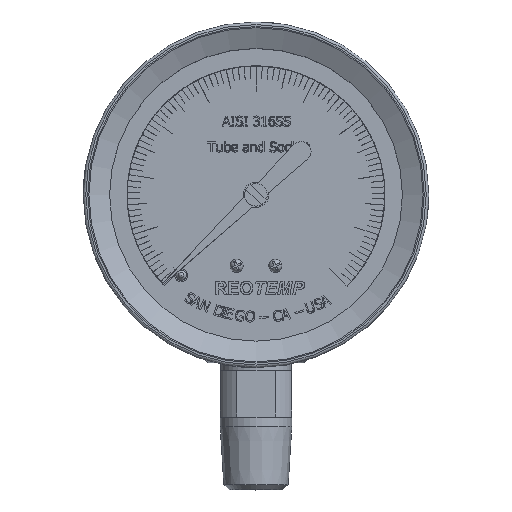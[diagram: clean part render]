
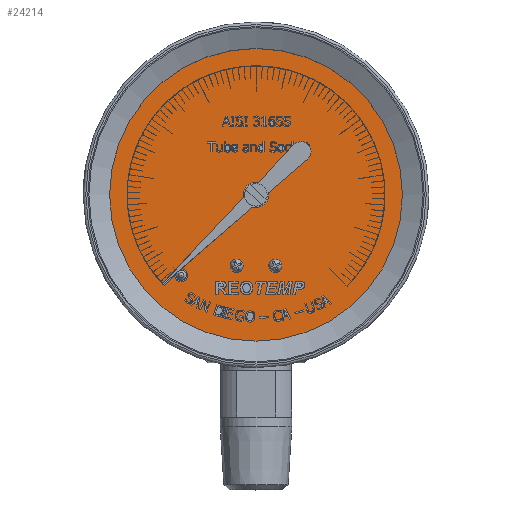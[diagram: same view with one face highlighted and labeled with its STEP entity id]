
A CAD part, top view. The second image highlights one B-rep face of the part: STEP entity #24214.
In plain terms, the highlighted planar face has unit normal (0, 0, -1).
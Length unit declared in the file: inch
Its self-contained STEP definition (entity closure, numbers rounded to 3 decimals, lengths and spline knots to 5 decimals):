
#7525=FACE_BOUND($,#7695,.T.);
#7526=FACE_BOUND($,#7696,.T.);
#7695=EDGE_LOOP($,(#15201));
#7696=EDGE_LOOP($,(#15202));
#9151=CIRCLE($,#25530,0.05);
#9152=CIRCLE($,#25531,1.135);
#9405=VERTEX_POINT($,#31867);
#9406=VERTEX_POINT($,#31869);
#11725=EDGE_CURVE($,#9405,#9405,#9151,.T.);
#11726=EDGE_CURVE($,#9406,#9406,#9152,.T.);
#15201=ORIENTED_EDGE($,*,*,#11725,.F.);
#15202=ORIENTED_EDGE($,*,*,#11726,.F.);
#22157=PLANE($,#25529);
#24214=ADVANCED_FACE($,(#7525,#7526),#22157,.F.);
#25529=AXIS2_PLACEMENT_3D($,#31866,#26786,#26787);
#25530=AXIS2_PLACEMENT_3D($,#31868,#26788,#26789);
#25531=AXIS2_PLACEMENT_3D($,#31870,#26790,#26791);
#26786=DIRECTION('center_axis',(0.,0.,
1.));
#26787=DIRECTION('ref_axis',(0.,-1.,0.));
#26788=DIRECTION('center_axis',(0.,0.,
-1.));
#26789=DIRECTION('ref_axis',(-0.771,-0.637,0.));
#26790=DIRECTION('center_axis',(0.,0.,
1.));
#26791=DIRECTION('ref_axis',(0.,1.,0.));
#31866=CARTESIAN_POINT('Origin',(-0.16132,0.38013,0.27841));
#31867=CARTESIAN_POINT('',(-0.70349,-0.21194,0.27841));
#31868=CARTESIAN_POINT('Origin',(-0.74205,-0.24377,
0.27841));
#31869=CARTESIAN_POINT('',(-0.16132,-0.75487,0.27841));
#31870=CARTESIAN_POINT('Origin',(-0.16132,0.38013,0.27841));
